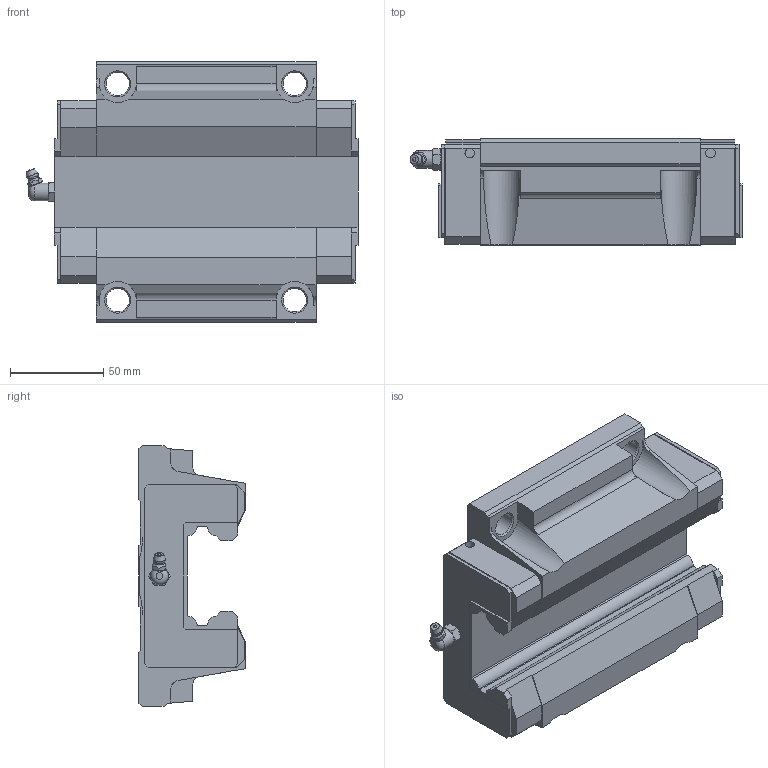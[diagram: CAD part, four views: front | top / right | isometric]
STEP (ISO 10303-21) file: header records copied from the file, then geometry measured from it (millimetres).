
FILE_DESCRIPTION(/* description */ ('STEP AP203'),/* implementation_level */ '2;1');
FILE_NAME(/* name */ 'HSR55C1SS(GK) BLOCK(1B-PT1_8)',/* time_stamp */ '2024-05-21T04:55:30+02:00',/* author */ ('License CC BY-ND 4.0'),/* organization */ ('CADENAS'),/* preprocessor_version */ 'ST-DEVELOPER v19.3',/* originating_system */ 'PARTsolutions',/* authorisation */ ' ');
FILE_SCHEMA (('CONFIG_CONTROL_DESIGN'));
Length unit declared in the file: millimetre
Products named in the file (3): HSR55C1SS(GK) BLOCK(1B-PT1/8); HSR55CSSB-PT1/811 S; hsr_ftht_B-PT1/8_grease_nipple_joint
Assembly tree (2 placements, depth 2):
  HSR55C1SS(GK) BLOCK(1B-PT1/8)
    HSR55CSSB-PT1/811 S
    hsr_ftht_B-PT1/8_grease_nipple_joint
Bounding box: 178.2 x 57 x 140 mm (x, y, z)
Volume: 771417.7 mm3; surface area: 84375.2 mm2
Topology: 2 solids, 2 shells, 223 faces, 610 edges, 399 vertices
Faces by surface type: plane 165, cylinder 33, cone 20, torus 3, sphere 2
Full cylindrical faces by diameter (mm): 5.2 x4, 9.6 x1, 10.2 x2, 12.5 x4
Entity records: 6826 total; most frequent: CARTESIAN_POINT 1319, ORIENTED_EDGE 1114, DIRECTION 1072, EDGE_CURVE 557, LINE 424, VECTOR 424, VERTEX_POINT 384, AXIS2_PLACEMENT_3D 324
